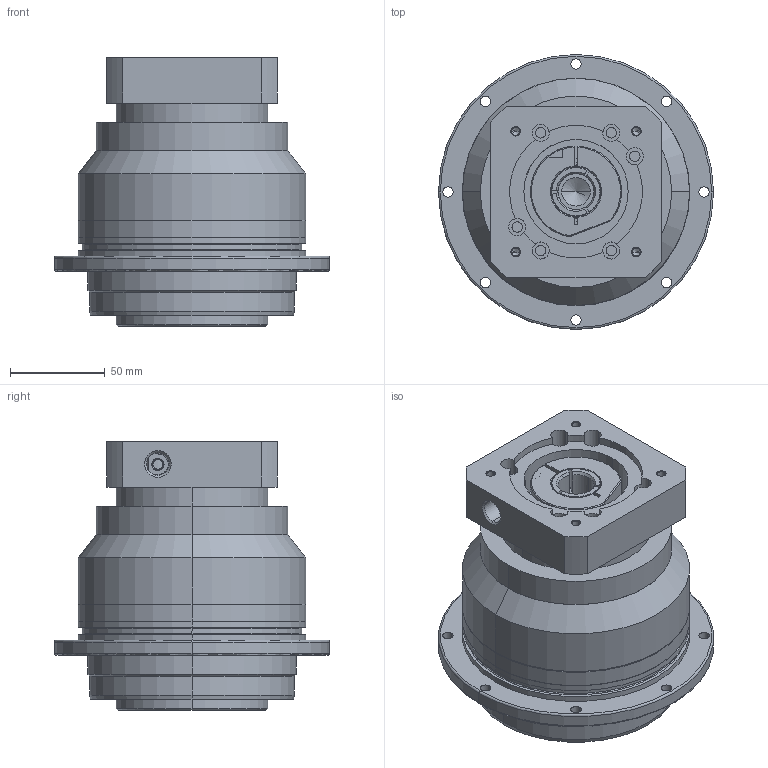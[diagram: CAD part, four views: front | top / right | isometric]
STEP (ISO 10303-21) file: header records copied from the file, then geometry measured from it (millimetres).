
FILE_DESCRIPTION (( 'STEP AP203' ), '1' );
FILE_NAME ('TD110-L2-19-95-115-60.5-12.STEP', '2021-01-18T06:40:44', ( 'Windows 蚚誧' ), ( 'Microsoft' ), 'SwSTEP 2.0', 'SolidWorks 2017', '' );
FILE_SCHEMA (( 'CONFIG_CONTROL_DESIGN' ));
Length unit declared in the file: millimetre
Products named in the file (3): TD110; 70-90-5; TD110-L2-19-95-115-60.5-12
Assembly tree (2 placements, depth 2):
  TD110-L2-19-95-115-60.5-12
    TD110
    70-90-5
Bounding box: 145 x 145 x 141.7 mm (x, y, z)
Volume: 1254731.2 mm3; surface area: 160170.6 mm2
Topology: 6 solids, 6 shells, 401 faces, 974 edges, 581 vertices
Faces by surface type: cylinder 187, cone 127, plane 73, torus 14
Entity records: 12517 total; most frequent: CARTESIAN_POINT 2726, DIRECTION 2178, ORIENTED_EDGE 1832, EDGE_CURVE 916, AXIS2_PLACEMENT_3D 903, VERTEX_POINT 581, CIRCLE 497, EDGE_LOOP 493
